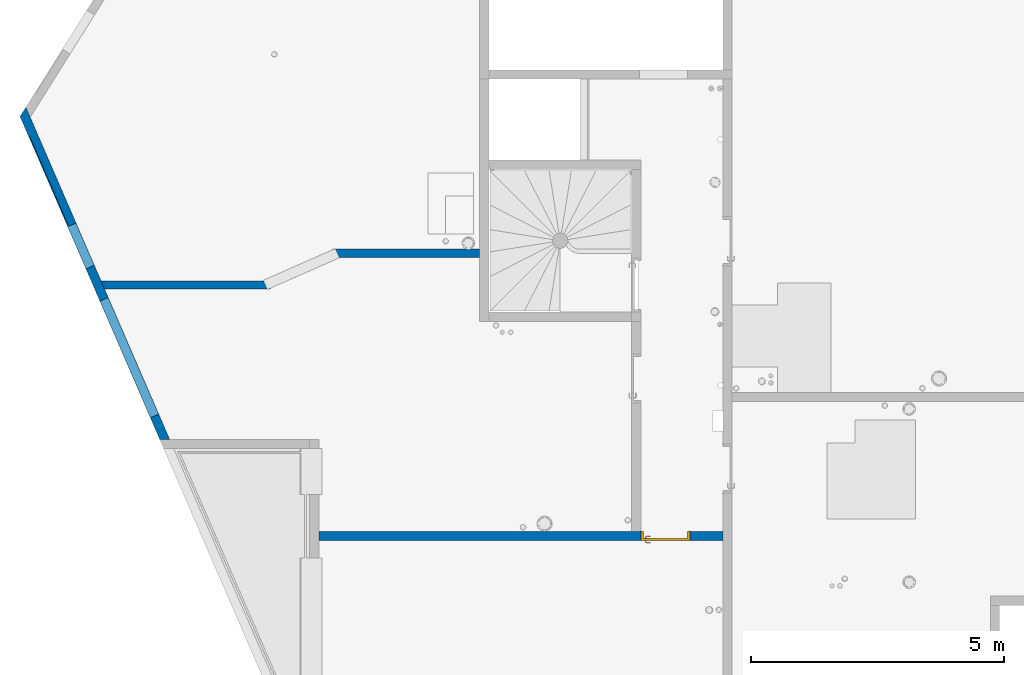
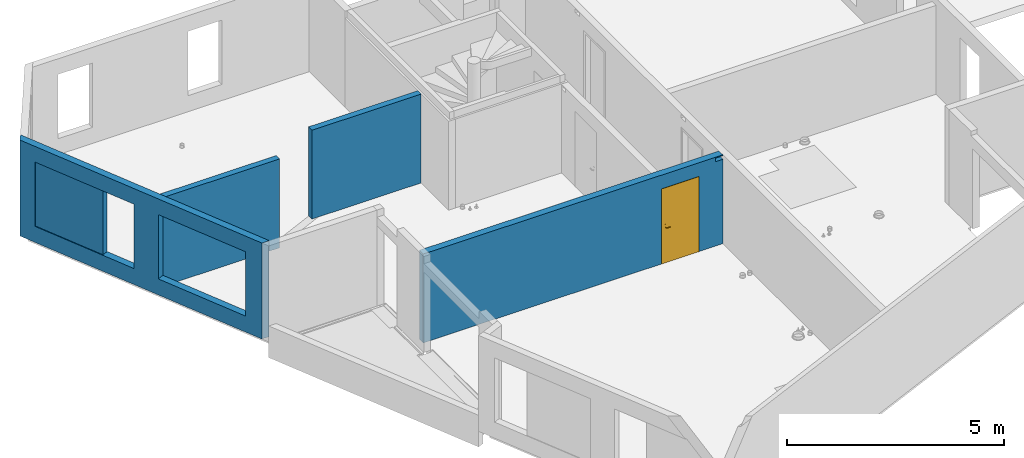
# One storey, part 3 of 24: 4 walls, 1 door, 7 openings.
"""IFC2X3 building model written with IfcOpenShell, lengths in centimetres."""

from ifc_helpers import new_model, entity, si_unit, converted_unit, derived_unit, direction, frame, frame_2d, origin, place, context, subcontext, project, spatial, polyline, rectangle, outline, extrude, faceted_brep, source, transform, mapped, material, material_list, layer, layer_set, layer_usage, type_object, type_shapes, element, fill, save


model = new_model("IFC2X3")

# Units and contexts
model_context = context("Model", 3, precision=0.001, world=origin(), true_north=direction((6.12303176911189e-17, 1.0)))
body_context = subcontext(model_context, "Body", "Model", "MODEL_VIEW")
ifc_project = project(units=[si_unit("LENGTHUNIT", "METRE", prefix="CENTI"), si_unit("AREAUNIT", "SQUARE_METRE"), si_unit("VOLUMEUNIT", "CUBIC_METRE"), converted_unit("PLANEANGLEUNIT", "DEGREE", entity("IfcRatioMeasure", 0.0174532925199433), si_unit("PLANEANGLEUNIT", "RADIAN"), dimensions=[0, 0, 0, 0, 0, 0, 0]), si_unit("MASSUNIT", "GRAM", prefix="KILO"), derived_unit("MASSDENSITYUNIT", [(si_unit("MASSUNIT", "GRAM", prefix="KILO"), 1), (si_unit("LENGTHUNIT", "METRE"), -3)]), si_unit("TIMEUNIT", "SECOND"), si_unit("FREQUENCYUNIT", "HERTZ"), si_unit("THERMODYNAMICTEMPERATUREUNIT", "DEGREE_CELSIUS"), derived_unit("THERMALTRANSMITTANCEUNIT", [(si_unit("MASSUNIT", "GRAM", prefix="KILO"), 1), (si_unit("THERMODYNAMICTEMPERATUREUNIT", "KELVIN"), -1), (si_unit("TIMEUNIT", "SECOND"), -3)]), derived_unit("VOLUMETRICFLOWRATEUNIT", [(si_unit("LENGTHUNIT", "METRE"), 3), (si_unit("TIMEUNIT", "SECOND"), -1)]), si_unit("ELECTRICCURRENTUNIT", "AMPERE"), si_unit("ELECTRICVOLTAGEUNIT", "VOLT"), si_unit("POWERUNIT", "WATT"), si_unit("FORCEUNIT", "NEWTON"), si_unit("ILLUMINANCEUNIT", "LUX"), si_unit("LUMINOUSFLUXUNIT", "LUMEN"), si_unit("LUMINOUSINTENSITYUNIT", "CANDELA"), derived_unit("USERDEFINED", [(si_unit("MASSUNIT", "GRAM", prefix="KILO"), -1), (si_unit("LENGTHUNIT", "METRE"), -2), (si_unit("TIMEUNIT", "SECOND"), 3), (si_unit("LUMINOUSFLUXUNIT", "LUMEN"), 1)]), derived_unit("LINEARVELOCITYUNIT", [(si_unit("LENGTHUNIT", "METRE"), 1), (si_unit("TIMEUNIT", "SECOND"), -1)]), si_unit("PRESSUREUNIT", "PASCAL"), derived_unit("USERDEFINED", [(si_unit("LENGTHUNIT", "METRE"), -2), (si_unit("MASSUNIT", "GRAM", prefix="KILO"), 1), (si_unit("TIMEUNIT", "SECOND"), -2)])], contexts=[model_context])

# Site, building, storey
site_placement = place(None, origin())
site = spatial("IfcSite", under=ifc_project, at=site_placement, Name="Default", CompositionType="ELEMENT")
building_placement = place(site_placement, origin())
building = spatial("IfcBuilding", under=site, at=building_placement, Name="CAGE 03", CompositionType="ELEMENT")
storey_placement = place(building_placement, frame((0.0, 0.0, 880.0)))
storey = spatial("IfcBuildingStorey", under=building, at=storey_placement, Name="R+3", CompositionType="ELEMENT", Elevation=880.0)

# Wall, openings
ifc_material_1 = material(Name="Béton, C25/30")
ifc_layer_1 = layer(ifc_material_1, 18.0)
ifc_layer_set_1 = layer_set([ifc_layer_1], Name="Mur de base:Voile BA 18")
ifc_layer_usage_1 = layer_usage(ifc_layer_set_1, "AXIS2", "NEGATIVE", 9.0)
wall_type_1 = type_object("IfcWallType", Name="Mur de base:Voile BA 18", PredefinedType="STANDARD", material=ifc_layer_set_1)
wall_1_placement = place(storey_placement, frame((3034.1023352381, 4396.08671008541, 0.0), z_axis=(0.0, 0.0, 1.0), x_axis=(-0.397106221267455, 0.917772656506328, 0.0)))
wall_1 = element("IfcWallStandardCase", 1, at=wall_1_placement, inside=storey, type_object=wall_type_1, material=ifc_layer_usage_1, Name="Mur de base:Voile BA 18", ObjectType="Mur de base:Voile BA 18", context=body_context, shape_type="SweptSolid", body=[
    extrude(outline(polyline([(714.485241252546, -9.0), (702.125283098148, 9.0), (7.78832528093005, 9.0), (0.0, -9.0), (323.609553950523, -9.0), (341.043065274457, -9.0), (692.65021055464, -9.0), (714.485241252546, -9.0)])), origin(), (0.0, 0.0, 1.0), 270.0),
])
opening_1_placement = place(wall_1_placement, origin())
element("IfcOpeningElement", 2, at=opening_1_placement, cuts=wall_1, Name="Mur de base:Voile BA 18", ObjectType="Recess", context=body_context, shape_type="SweptSolid", body=[
    extrude(rectangle(XDim=181.0, YDim=194.0, at=frame_2d((0.0, 1.06581410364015e-13), x_axis=(0.0, 1.0))), frame((562.174884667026, 7.0, 135.5), z_axis=(0.0, 1.0, 0.0), x_axis=(1.0, 0.0, 0.0)), (0.0, 0.0, 1.0), 2.00000000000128),
])
opening_2_placement = place(wall_1_placement, origin())
element("IfcOpeningElement", 3, at=opening_2_placement, cuts=wall_1, Name="Mur de base:Voile BA 18", ObjectType="Recess", context=body_context, shape_type="SweptSolid", body=[
    extrude(rectangle(XDim=181.0, YDim=184.0, at=frame_2d((-2.91322521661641e-13, 1.06581410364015e-13), x_axis=(0.0, 1.0))), frame((-843.325115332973, 7.0, 135.5), z_axis=(0.0, 1.0, 0.0), x_axis=(1.0, 0.0, 0.0)), (0.0, 0.0, 1.0), 2.00000000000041),
])
opening_3_placement = place(wall_1_placement, origin())
element("IfcOpeningElement", 4, at=opening_3_placement, cuts=wall_1, Name="Mur de base:Voile BA 18", ObjectType="Recess", context=body_context, shape_type="SweptSolid", body=[
    extrude(rectangle(XDim=181.0, YDim=194.0, at=frame_2d((0.0, 1.06581410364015e-13), x_axis=(0.0, 1.0))), frame((-1192.32511533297, 7.0, 135.5), z_axis=(0.0, 1.0, 0.0), x_axis=(1.0, 0.0, 0.0)), (0.0, 0.0, 1.0), 2.00000000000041),
])
opening_4_placement = place(wall_1_placement, frame((-2829.74726486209, 4530.32954212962, 0.0), z_axis=(0.0, 0.0, 1.0), x_axis=(-0.397106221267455, -0.917772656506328, 0.0)))
element("IfcOpeningElement", 5, at=opening_4_placement, cuts=wall_1, Name="Mur de base:Voile BA 18", ObjectType="Opening", context=body_context, shape_type="SweptSolid", body=[
    extrude(rectangle(XDim=181.0, YDim=91.0, at=frame_2d((-5.6843418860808e-14, -8.88178419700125e-14), x_axis=(1.0, 0.0))), frame((2999.05542657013, 4838.197875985, 135.5), z_axis=(-0.917772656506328, -0.397106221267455, 0.0), x_axis=(0.0, 0.0, 1.0)), (0.0, 0.0, 1.0), 304.8),
])
opening_5_placement = place(wall_1_placement, frame((-2829.74726486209, 4530.32954212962, 0.0), z_axis=(0.0, 0.0, 1.0), x_axis=(-0.397106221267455, -0.917772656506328, 0.0)))
element("IfcOpeningElement", 6, at=opening_5_placement, cuts=wall_1, Name="Mur de base:Voile BA 18", ObjectType="Opening", context=body_context, shape_type="SweptSolid", body=[
    extrude(rectangle(XDim=181.0, YDim=251.0, at=frame_2d((-5.6843418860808e-14, 4.05009359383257e-13), x_axis=(1.0, 0.0))), frame((3094.36091967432, 4617.93243842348, 135.5), z_axis=(-0.917772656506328, -0.397106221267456, 0.0), x_axis=(0.0, 0.0, 1.0)), (0.0, 0.0, 1.0), 304.8),
])

# Wall, openings, door
ifc_layer_usage_2 = layer_usage(ifc_layer_set_1, "AXIS2", "NEGATIVE", 9.0)
wall_2_placement = place(storey_placement, frame((4134.36582014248, 4209.16066607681, 0.0), z_axis=(0.0, 0.0, 1.0), x_axis=(-1.0, 0.0, 0.0)))
wall_2 = element("IfcWallStandardCase", 7, at=wall_2_placement, inside=storey, type_object=wall_type_1, material=ifc_layer_usage_2, Name="Mur de base:Voile BA 18", ObjectType="Mur de base:Voile BA 18", context=body_context, shape_type="SweptSolid", body=[
    extrude(rectangle(XDim=797.499999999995, YDim=17.9999999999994, at=frame_2d((398.749999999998, -2.65565347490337e-13), x_axis=(-1.0, 0.0))), origin(), (0.0, 0.0, 1.0), 250.0),
])
opening_6_placement = place(wall_2_placement, origin())
element("IfcOpeningElement", 8, at=opening_6_placement, cuts=wall_2, Name="Mur de base:Voile BA 18", ObjectType="Opening", context=body_context, shape_type="SweptSolid", body=[
    extrude(rectangle(XDim=10.0000000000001, YDim=19.9999999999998, at=frame_2d((4.33431068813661e-13, 1.08357767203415e-13), x_axis=(0.0, 1.0))), frame((10.0, -9.0, 242.5), z_axis=(0.0, 1.0, 0.0), x_axis=(1.0, 0.0, 0.0)), (0.0, 0.0, 1.0), 17.9999999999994),
])
opening_7_placement = place(wall_2_placement, frame((65.0, -9.0, 0.0)))
opening_7 = element("IfcOpeningElement", 9, at=opening_7_placement, cuts=wall_2, Name="Int. Simple:HB93:1", ObjectType="Opening", context=body_context, shape_type="SweptSolid", body=[
    extrude(rectangle(XDim=210.000000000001, YDim=96.9999999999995, at=frame_2d((105.000000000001, 48.4999999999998), x_axis=(1.0, 0.0))), frame((0.0, 0.0, 0.0), z_axis=(0.0, 1.0, 0.0), x_axis=(0.0, 0.0, 1.0)), (0.0, 0.0, 1.0), 18.0),
])
ifc_material_2 = material(Name="Finition Peinture - Blanc satiné")
ifc_material_3 = material(Name="Bois - Panneau de porte")
ifc_material_4 = material(Name="Bois - Cadre de porte")
ifc_material_list_1 = material_list([ifc_material_2, ifc_material_3, ifc_material_4])
ifc_material_list_2 = material_list([ifc_material_2, ifc_material_3, ifc_material_4])
door_style = type_object("IfcDoorStyle", Name="HB93", ConstructionType="NOTDEFINED", OperationType="SINGLE_SWING_LEFT", ParameterTakesPrecedence=False, Sizeable=False, material=ifc_material_list_2)
shared_shape = source(origin(), body_context, "Body", "Brep", [
    faceted_brep([(10.5352761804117, -0.500000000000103, 86.6003983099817), (11.5000000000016, -0.500000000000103, 87.0), (11.5000000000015, -0.500000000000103, 108.0), (10.5352761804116, -0.500000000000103, 108.399601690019), (9.50000000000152, -0.500000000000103, 108.535898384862), (8.46472381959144, -0.500000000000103, 108.399601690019), (7.50000000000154, -0.500000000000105, 108.0), (7.50000000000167, -0.500000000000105, 87.0), (8.46472381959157, -0.500000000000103, 86.6003983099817), (9.50000000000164, -0.500000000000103, 86.464101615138), (10.5352761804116, 0.0, 108.399601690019), (11.5000000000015, 0.0, 108.0), (11.5000000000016, 0.0, 87.0), (10.5352761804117, 0.0, 86.6003983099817), (9.50000000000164, 0.0, 86.464101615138), (8.46472381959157, 0.0, 86.6003983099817), (7.50000000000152, 0.0, 87.0), (7.50000000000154, 0.0, 108.0), (8.46472381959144, 0.0, 108.399601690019), (9.50000000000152, 0.0, 108.535898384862)], [[[0, 1, 2, 3, 4, 5, 6, 7, 8, 9]], [[10, 11, 12, 13, 14, 15, 16, 17, 18, 19]], [[16, 15, 8, 7]], [[8, 15, 14, 9]], [[14, 13, 0, 9]], [[13, 12, 1, 0]], [[2, 1, 12, 11]], [[11, 10, 3, 2]], [[3, 10, 19, 4]], [[19, 18, 5, 4]], [[18, 17, 6, 5]], [[7, 6, 17, 16]]]),
    faceted_brep([(10.5352761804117, 4.0, 86.6003983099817), (11.5000000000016, 4.0, 87.0), (11.5000000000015, 4.0, 108.0), (10.5352761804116, 4.0, 108.399601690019), (9.50000000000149, 4.0, 108.535898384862), (8.46472381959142, 4.0, 108.399601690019), (7.50000000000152, 4.0, 108.0), (7.50000000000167, 4.0, 87.0), (8.46472381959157, 4.0, 86.6003983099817), (9.50000000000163, 4.0, 86.464101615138), (10.5352761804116, 4.49999999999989, 108.399601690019), (11.5000000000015, 4.4999999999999, 108.0), (11.5000000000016, 4.4999999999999, 87.0), (10.5352761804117, 4.49999999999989, 86.6003983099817), (9.50000000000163, 4.49999999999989, 86.464101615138), (8.46472381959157, 4.49999999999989, 86.6003983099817), (7.50000000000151, 4.49999999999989, 87.0), (7.50000000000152, 4.49999999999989, 108.0), (8.46472381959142, 4.49999999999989, 108.399601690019), (9.50000000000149, 4.49999999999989, 108.535898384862)], [[[0, 1, 2, 3, 4, 5, 6, 7, 8, 9]], [[10, 11, 12, 13, 14, 15, 16, 17, 18, 19]], [[11, 10, 3, 2]], [[3, 10, 19, 4]], [[19, 18, 5, 4]], [[18, 17, 6, 5]], [[7, 6, 17, 16]], [[16, 15, 8, 7]], [[8, 15, 14, 9]], [[14, 13, 0, 9]], [[13, 12, 1, 0]], [[2, 1, 12, 11]]]),
    faceted_brep([(9.29747013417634, -0.500000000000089, 100.778044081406), (9.70252986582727, -0.500000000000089, 100.778044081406), (10.1000000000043, -0.500000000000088, 100.699999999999), (10.1000000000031, -0.500000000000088, 99.3000000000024), (9.70252986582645, -0.500000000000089, 99.2219559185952), (9.29747013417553, -0.500000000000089, 99.221955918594), (8.89999999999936, -0.500000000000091, 99.2999999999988), (8.89999999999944, -0.500000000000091, 100.7), (8.89999999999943, -3.26509507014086, 100.7), (9.29747013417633, -3.10045754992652, 100.778044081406), (10.9023585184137, -4.70534593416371, 100.778044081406), (11.0701397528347, -4.30028620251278, 100.778044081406), (9.70252986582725, -2.93267631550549, 100.778044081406), (10.1000000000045, -2.76803879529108, 100.7), (10.1000000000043, -2.76803879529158, 99.3000000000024), (9.70252986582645, -2.93267631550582, 99.2219559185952), (11.0701397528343, -4.30028620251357, 99.2219559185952), (10.9023585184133, -4.70534593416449, 99.221955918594), (9.29747013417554, -3.10045754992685, 99.221955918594), (8.89999999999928, -3.26509507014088, 99.2999999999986), (10.7377209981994, -5.1028160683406, 100.7), (11.2347772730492, -3.90281606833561, 100.7), (11.2347772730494, -3.90281606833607, 99.3000000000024), (10.7377209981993, -5.10281606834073, 99.2999999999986), (19.5018640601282, -5.1028160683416, 99.2999999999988), (19.5018640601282, -4.70534593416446, 99.221955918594), (19.5018640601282, -4.30028620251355, 99.2219559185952), (19.5018640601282, -3.90281606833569, 99.3000000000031), (19.5018640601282, -3.90281606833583, 100.7), (19.5018640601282, -4.30028620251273, 100.778044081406), (19.5018640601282, -4.70534593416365, 100.778044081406), (19.5018640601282, -5.10281606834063, 100.699999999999), (14.7307697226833, -5.10281606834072, 100.7), (15.28600190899, -4.5028160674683, 100.78786867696), (15.3683206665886, -3.9028160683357, 100.7), (15.3683206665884, -3.90281606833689, 99.3000000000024), (15.2860018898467, -4.50281607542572, 99.2121313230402), (14.7307700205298, -5.10281606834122, 99.2999999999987)], [[[0, 1, 2, 3, 4, 5, 6, 7]], [[8, 9, 0, 7]], [[9, 10, 11, 12, 1, 0]], [[12, 13, 2, 1]], [[3, 2, 13, 14]], [[14, 15, 4, 3]], [[15, 16, 17, 18, 5, 4]], [[18, 19, 6, 5]], [[7, 6, 19, 8]], [[20, 10, 9, 8]], [[11, 21, 13, 12]], [[14, 13, 21, 22]], [[22, 16, 15, 14]], [[17, 23, 19, 18]], [[8, 19, 23, 20]], [[24, 25, 26, 27, 28, 29, 30, 31]], [[32, 30, 33]], [[31, 30, 32]], [[10, 20, 32]], [[33, 34, 11]], [[21, 11, 34]], [[34, 29, 28]], [[30, 29, 33]], [[29, 34, 33]], [[10, 32, 33]], [[10, 33, 11]], [[22, 21, 34, 28, 27, 35]], [[35, 26, 36]], [[37, 36, 25]], [[22, 35, 16]], [[35, 27, 26]], [[24, 37, 25]], [[23, 17, 37]], [[37, 17, 36]], [[17, 16, 36]], [[16, 35, 36]], [[25, 36, 26]], [[20, 23, 37, 24, 31, 32]]]),
    faceted_brep([(9.29747013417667, 4.49999999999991, 100.778044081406), (8.89999999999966, 4.49999999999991, 100.7), (8.89999999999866, 4.49999999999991, 99.2999999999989), (9.2974701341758, 4.49999999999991, 99.221955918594), (9.70252986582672, 4.49999999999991, 99.2219559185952), (10.1000000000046, 4.49999999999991, 99.3000000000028), (10.1000000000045, 4.49999999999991, 100.7), (9.70252986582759, 4.49999999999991, 100.778044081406), (10.1000000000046, 6.7485204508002, 99.3000000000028), (10.1000000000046, 6.74852045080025, 100.7), (9.70252986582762, 6.91315797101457, 100.778044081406), (11.0838906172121, 8.29451872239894, 100.778044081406), (10.9161093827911, 8.69957845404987, 100.778044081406), (9.29747013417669, 7.0809392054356, 100.778044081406), (8.89999999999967, 7.24557672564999, 100.7), (8.89999999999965, 7.24557672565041, 99.2999999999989), (9.29747013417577, 7.08093920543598, 99.221955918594), (10.9161093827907, 8.69957845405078, 99.221955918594), (11.0838906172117, 8.29451872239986, 99.2219559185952), (9.7025298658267, 6.91315797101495, 99.2219559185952), (11.2485281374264, 7.89704858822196, 99.3000000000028), (11.2485281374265, 7.89704858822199, 100.7), (10.7514718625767, 9.0970485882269, 100.7), (10.751471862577, 9.0970485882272, 99.2999999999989), (19.504578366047, 7.89704858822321, 99.3000000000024), (19.504578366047, 8.29451872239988, 99.2219559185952), (19.504578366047, 8.6995784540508, 99.221955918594), (19.504578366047, 9.09704858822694, 99.2999999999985), (19.504578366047, 9.09704858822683, 100.7), (19.504578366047, 8.69957845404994, 100.778044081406), (19.504578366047, 8.29451872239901, 100.778044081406), (19.504578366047, 7.89704858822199, 100.7), (15.3765520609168, 7.89704858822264, 99.3000000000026), (15.3765532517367, 7.89704858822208, 100.7), (15.294234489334, 8.49704858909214, 100.78786867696), (14.7445205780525, 9.09704858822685, 100.7), (14.7445204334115, 9.09704858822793, 99.2999999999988), (15.2942345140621, 8.49704858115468, 99.2121313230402)], [[[0, 1, 2, 3, 4, 5, 6, 7]], [[6, 5, 8, 9]], [[9, 10, 7, 6]], [[10, 11, 12, 13, 0, 7]], [[13, 14, 1, 0]], [[2, 1, 14, 15]], [[15, 16, 3, 2]], [[16, 17, 18, 19, 4, 3]], [[19, 8, 5, 4]], [[9, 8, 20, 21]], [[21, 11, 10, 9]], [[12, 22, 14, 13]], [[15, 14, 22, 23]], [[23, 17, 16, 15]], [[18, 20, 8, 19]], [[24, 25, 26, 27, 28, 29, 30, 31]], [[21, 20, 32, 24, 31, 33]], [[33, 30, 34]], [[35, 34, 29]], [[21, 33, 11]], [[33, 31, 30]], [[28, 35, 29]], [[22, 12, 35]], [[35, 12, 34]], [[12, 11, 34]], [[11, 33, 34]], [[29, 34, 30]], [[22, 35, 28, 27, 36, 23]], [[36, 26, 37]], [[27, 26, 36]], [[17, 23, 36]], [[37, 32, 18]], [[20, 18, 32]], [[32, 25, 24]], [[26, 25, 37]], [[25, 32, 37]], [[17, 36, 37]], [[17, 37, 18]]]),
    faceted_brep([(3.50000000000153, 4.0, 206.5), (93.5000000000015, 4.0, 206.5), (93.5000000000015, 4.0, 0.0), (3.50000000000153, 4.0, 0.0), (3.50000000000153, 0.0, 206.5), (3.50000000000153, 0.0, 0.0), (93.5000000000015, 0.0, 0.0), (93.5000000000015, 0.0, 206.5)], [[[0, 1, 2, 3]], [[4, 5, 6, 7]], [[1, 0, 4, 7]], [[2, 1, 7, 6]], [[3, 2, 6, 5]], [[0, 3, 5, 4]]]),
    faceted_brep([(0.0, 0.0, 0.0), (0.0, 18.0, 0.0), (5.0, 18.0, 0.0), (5.0, 4.0, 0.0), (3.50000000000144, 4.0, 0.0), (3.50000000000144, 0.0, 0.0), (0.0, 0.0, 210.0), (0.0, 18.0, 210.0), (97.0, 18.0, 210.0), (97.0, 18.0, 0.0), (92.0, 18.0, 0.0), (92.0, 18.0, 205.0), (5.0, 18.0, 205.0), (5.0, 4.0, 205.0), (92.0, 4.0, 205.0), (92.0, 4.0, 0.0), (93.4999999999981, 4.0, 0.0), (93.4999999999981, 4.0, 206.5), (3.50000000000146, 4.0, 206.5), (3.50000000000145, 0.0, 206.5), (93.4999999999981, 0.0, 206.5), (93.4999999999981, 0.0, 0.0), (97.0, 0.0, 0.0), (97.0, 0.0, 210.0)], [[[0, 1, 2, 3, 4, 5]], [[1, 0, 6, 7]], [[2, 1, 7, 8, 9, 10, 11, 12]], [[3, 2, 12, 13]], [[4, 3, 13, 14, 15, 16, 17, 18]], [[5, 4, 18, 19]], [[0, 5, 19, 20, 21, 22, 23, 6]], [[8, 23, 22, 9]], [[22, 21, 16, 15, 10, 9]], [[14, 11, 10, 15]], [[20, 17, 16, 21]], [[7, 6, 23, 8]], [[13, 12, 11, 14]], [[19, 18, 17, 20]]]),
    faceted_brep([(1.5, 18.0, 0.0), (-1.49999999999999, 18.0, 0.0), (-1.49999999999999, 18.5000000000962, 0.0), (1.5, 18.5000000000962, 0.0), (1.5, 18.0, 208.500000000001), (95.4999999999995, 18.0, 208.500000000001), (95.4999999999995, 18.0, 0.0), (98.4999999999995, 18.0, 0.0), (98.4999999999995, 18.0, 211.500000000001), (-1.49999999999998, 18.0, 211.500000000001), (-1.49999999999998, 18.5000000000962, 211.500000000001), (98.4999999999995, 18.5000000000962, 211.500000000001), (98.4999999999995, 18.5000000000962, 0.0), (95.4999999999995, 18.5000000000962, 0.0), (95.4999999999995, 18.5000000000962, 208.500000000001), (1.50000000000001, 18.5000000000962, 208.500000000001)], [[[0, 1, 2, 3]], [[1, 0, 4, 5, 6, 7, 8, 9]], [[2, 1, 9, 10]], [[3, 2, 10, 11, 12, 13, 14, 15]], [[0, 3, 15, 4]], [[6, 13, 12, 7]], [[5, 14, 13, 6]], [[11, 8, 7, 12]], [[10, 9, 8, 11]], [[4, 15, 14, 5]]]),
    faceted_brep([(-1.49999999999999, -0.5, 0.0), (1.5, -0.5, 0.0), (1.5, -0.5, 208.500000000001), (95.4999999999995, -0.5, 208.500000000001), (95.4999999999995, -0.5, 0.0), (98.4999999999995, -0.5, 0.0), (98.4999999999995, -0.5, 211.500000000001), (-1.49999999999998, -0.5, 211.500000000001), (-1.49999999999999, 0.0, 0.0), (-1.49999999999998, 0.0, 211.500000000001), (1.5, 0.0, 0.0), (98.4999999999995, 0.0, 211.500000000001), (98.4999999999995, 0.0, 0.0), (95.4999999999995, 0.0, 0.0), (95.4999999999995, 0.0, 208.500000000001), (1.50000000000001, 0.0, 208.500000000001)], [[[0, 1, 2, 3, 4, 5, 6, 7]], [[8, 0, 7, 9]], [[10, 8, 9, 11, 12, 13, 14, 15]], [[1, 10, 15, 2]], [[3, 14, 13, 4]], [[11, 6, 5, 12]], [[9, 7, 6, 11]], [[2, 15, 14, 3]], [[4, 13, 12, 5]], [[1, 0, 8, 10]]]),
])
type_shapes(door_style, [shared_shape])
door_placement = place(opening_7_placement, frame((97.0, 18.0, 0.0), z_axis=(0.0, 0.0, 1.0), x_axis=(-1.0, 0.0, 0.0)))
door = element("IfcDoor", 10, at=door_placement, inside=storey, type_object=door_style, material=ifc_material_list_1, Name="Int. Simple:HB93", ObjectType="HB93", OverallHeight=210.000000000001, OverallWidth=96.9999999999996, context=body_context, shape_type="MappedRepresentation", body=[
    mapped(shared_shape, transform((0.0, 0.0, 0.0), scale=1.0)),
])
fill(opening_7, door)

# Walls
ifc_layer_2 = layer(ifc_material_1, 16.0)
ifc_layer_set_2 = layer_set([ifc_layer_2], Name="Mur de base:Voile BA 16")
ifc_layer_usage_3 = layer_usage(ifc_layer_set_2, "AXIS2", "POSITIVE", -8.0)
wall_type_2 = type_object("IfcWallType", Name="Mur de base:Voile BA 16", PredefinedType="STANDARD", material=ifc_layer_set_2)
wall_3_placement = place(storey_placement, frame((3363.36582014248, 4767.16066607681, 0.0)))
element("IfcWallStandardCase", 11, at=wall_3_placement, inside=storey, type_object=wall_type_2, material=ifc_layer_usage_3, Name="Mur de base:Voile BA 16", ObjectType="Mur de base:Voile BA 16", context=body_context, shape_type="SweptSolid", body=[
    extrude(rectangle(XDim=291.0, YDim=15.9999999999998, at=frame_2d((145.5, 5.72875080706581e-14), x_axis=(-1.0, 0.0))), origin(), (0.0, 0.0, 1.0), 250.0),
])
ifc_layer_usage_4 = layer_usage(ifc_layer_set_2, "AXIS2", "POSITIVE", -8.0)
wall_4_placement = place(storey_placement, frame((2906.93196620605, 4704.66066607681, 0.0)))
element("IfcWallStandardCase", 12, at=wall_4_placement, inside=storey, type_object=wall_type_2, material=ifc_layer_usage_4, Name="Mur de base:Voile BA 16", ObjectType="Mur de base:Voile BA 16", context=body_context, shape_type="SweptSolid", body=[
    extrude(outline(polyline([(334.433853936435, -8.0), (334.433853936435, 8.0), (0.0, 8.0), (6.92295580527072, -8.0), (334.433853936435, -8.0)])), origin(), (0.0, 0.0, 1.0), 250.0),
])

save(model, "model.ifc")
